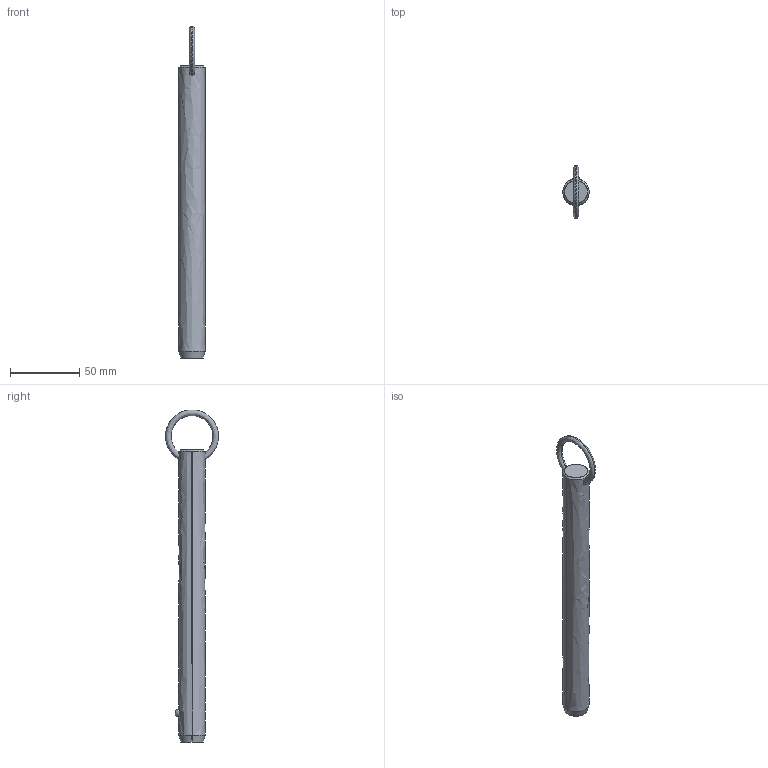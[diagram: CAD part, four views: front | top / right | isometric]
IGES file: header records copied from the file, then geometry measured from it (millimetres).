
Start section: SolidWorks IGES file using analytic representation for surfaces
Global section: file name: C:\Users\liam_\OneDrive\Documents\WORK\Work for WixRoyd\Job Files\J-00019 - Matt Davis CAD Checking\04. CAD Drawings\automotion20190605\P1250.2_v2\P1250.2_v2_20190729_IGES\P1250.075-700.igs; native system: SolidWorks 2017; preprocessor: SolidWorks 2017; author: liam_; date: 190730.000116; units: millimetre
Bounding box: 19 x 38.09 x 239.58 mm (x, y, z)
Surface area: 14127.5 mm2 (no closed solid volume)
Topology: 0 solids, 0 shells, 12 faces, 294 edges, 292 vertices
Faces by surface type: revolution 8, bspline 4
